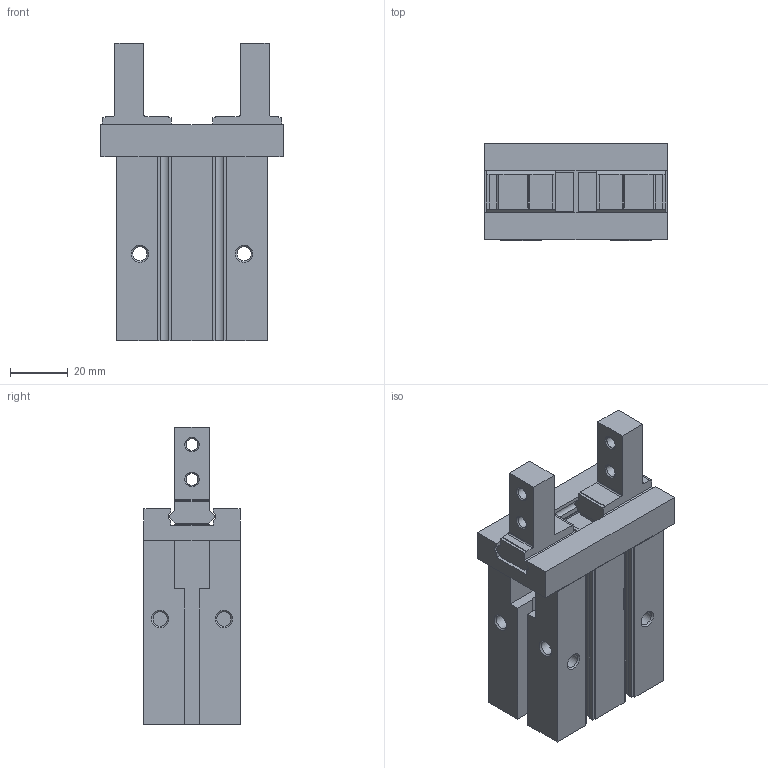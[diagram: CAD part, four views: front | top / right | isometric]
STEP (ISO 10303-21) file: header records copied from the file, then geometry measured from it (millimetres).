
FILE_DESCRIPTION(/* description */ ('STEP AP214'),/* implementation_level */ '2;1');
FILE_NAME(/* name */ 'MHZ2-25D(33.3_0)',/* time_stamp */ '2025-09-11T08:01:06+02:00',/* author */ ('License CC BY-ND 4.0'),/* organization */ ('CADENAS'),/* preprocessor_version */ 'ST-DEVELOPER v19.3',/* originating_system */ 'PARTsolutions',/* authorisation */ ' ');
FILE_SCHEMA (('AUTOMOTIVE_DESIGN {1 0 10303 214 3 1 1}'));
Length unit declared in the file: millimetre
Products named in the file (3): MHZ2-25D(33.3_0); MHZ2-25D_Body(0); MHZ2-25D_Finger(0)
Assembly tree (3 placements, depth 2):
  MHZ2-25D(33.3_0)
    MHZ2-25D_Body(0)
    MHZ2-25D_Finger(0)  x2
Bounding box: 63 x 33.6 x 102.7 mm (x, y, z)
Volume: 119120.9 mm3; surface area: 30922 mm2
Topology: 3 solids, 3 shells, 226 faces, 600 edges, 390 vertices
Faces by surface type: plane 170, cylinder 34, cone 22
Full cylindrical faces by diameter (mm): 4 x1, 4.134 x6, 4.917 x8, 5.1 x4, 26 x1
Entity records: 5498 total; most frequent: CARTESIAN_POINT 942, DIRECTION 906, ORIENTED_EDGE 888, EDGE_CURVE 444, LINE 358, VECTOR 358, VERTEX_POINT 310, AXIS2_PLACEMENT_3D 274
